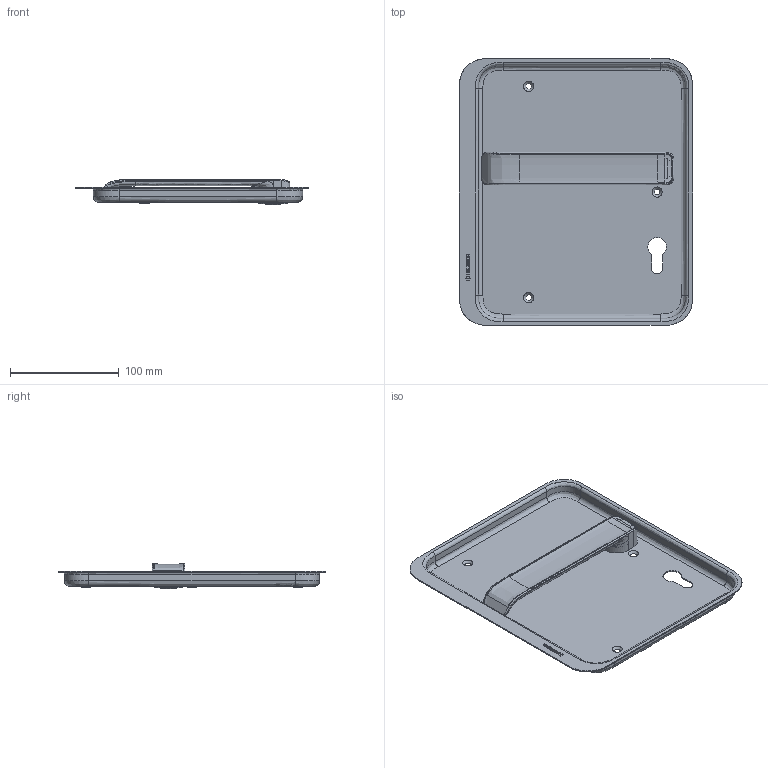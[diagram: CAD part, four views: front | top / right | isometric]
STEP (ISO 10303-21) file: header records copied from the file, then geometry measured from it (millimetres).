
FILE_DESCRIPTION(/* description */ (''),/* implementation_level */ '2;1');
FILE_NAME(/* name */ 'C:\ADSK_DMS_WS\Designs\Vorschläge\Loc Schalen\Muschel Serie 9\S9.13.D3Links\Heusser-Muschel S9.13.D3.372L.stp',/* time_stamp */ '2020-10-14T07:52:26+02:00',/* author */ ('gm'),/* organization */ (''),/* preprocessor_version */ 'ST-DEVELOPER v16.5',/* originating_system */ 'Autodesk Inventor 2017',/* authorisation */ '');
FILE_SCHEMA (('AUTOMOTIVE_DESIGN { 1 0 10303 214 3 1 1 }'));
Length unit declared in the file: millimetre
Products named in the file (1): S9.13.D3.0L
Bounding box: 214 x 245 x 23 mm (x, y, z)
Volume: 95516.8 mm3; surface area: 137066.7 mm2
Topology: 1 solids, 2 shells, 331 faces, 855 edges, 554 vertices
Faces by surface type: bspline 160, plane 133, cylinder 22, cone 16
Full cylindrical faces by diameter (mm): 1.7 x2, 14.2 x1, 16 x3, 18 x1, 19 x1, 19.1 x1, 23 x1, 23.2 x1, 24 x1, 25 x1, 26 x1, 28 x1
Entity records: 18456 total; most frequent: CARTESIAN_POINT 11095, ORIENTED_EDGE 1636, DIRECTION 977, EDGE_CURVE 818, VERTEX_POINT 548, LINE 419, VECTOR 419, EDGE_LOOP 408
